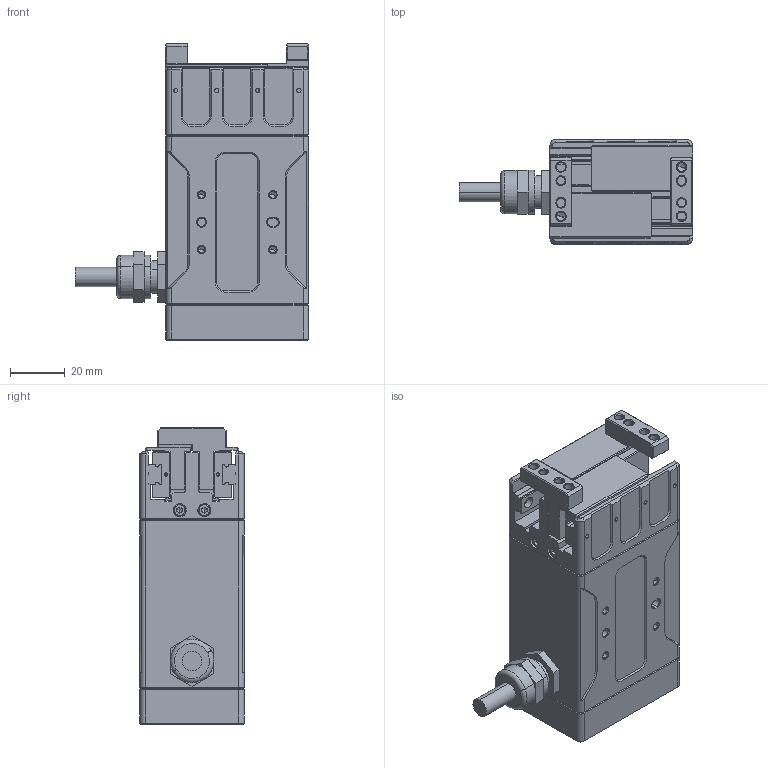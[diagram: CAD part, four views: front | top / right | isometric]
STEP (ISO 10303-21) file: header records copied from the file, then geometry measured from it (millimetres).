
FILE_DESCRIPTION (( 'STEP AP214' ), '1' );
FILE_NAME ('EFG-30 V1-LMC.STEP', '2022-04-20T05:42:10', ( '' ), ( '' ), 'SwSTEP 2.0', 'SolidWorks 2018', '' );
FILE_SCHEMA (( 'AUTOMOTIVE_DESIGN' ));
Length unit declared in the file: millimetre
Products named in the file (1): EFG-30 V1-LMC
Bounding box: 85 x 38 x 108 mm (x, y, z)
Volume: 181841 mm3; surface area: 45698.3 mm2
Topology: 3 solids, 25 shells, 1135 faces, 2808 edges, 1730 vertices
Faces by surface type: plane 556, cylinder 330, cone 193, bspline 30, torus 26
Entity records: 47776 total; most frequent: CARTESIAN_POINT 8720, ORIENTED_EDGE 5448, DIRECTION 5437, EDGE_CURVE 2724, AXIS2_PLACEMENT_3D 1891, VERTEX_POINT 1730, LINE 1655, VECTOR 1655
